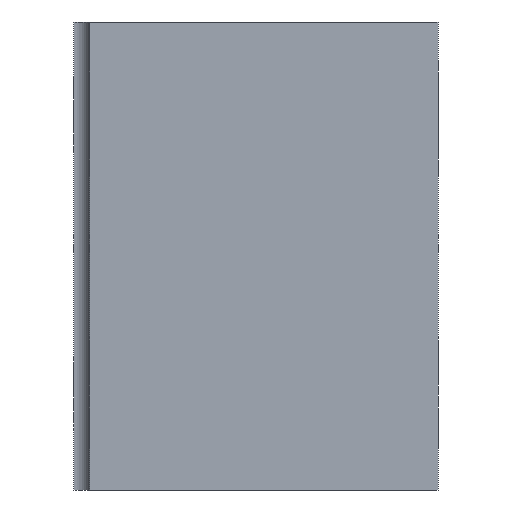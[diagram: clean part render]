
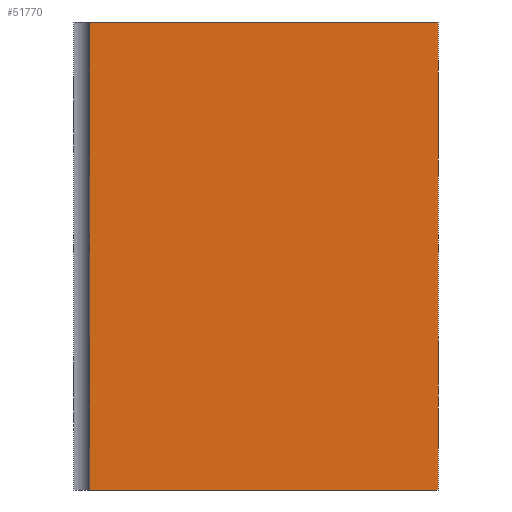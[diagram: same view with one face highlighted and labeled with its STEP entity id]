
A CAD part, left-side view. The second image highlights one B-rep face of the part: STEP entity #51770.
In plain terms, the highlighted planar face has unit normal (-1, 0, 0).
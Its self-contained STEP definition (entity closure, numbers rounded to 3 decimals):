
#619 = AXIS2_PLACEMENT_3D ( 'NONE', #59393, #54574, #19331 ) ;
#1998 = DIRECTION ( 'NONE',  ( 0., 0., 1. ) ) ;
#3907 = CARTESIAN_POINT ( 'NONE',  ( -185., 70., -45. ) ) ;
#5928 = DIRECTION ( 'NONE',  ( 0., -1., 0. ) ) ;
#7138 = LINE ( 'NONE', #50513, #17247 ) ;
#9429 = DIRECTION ( 'NONE',  ( 0., 0., -1. ) ) ;
#10761 = CARTESIAN_POINT ( 'NONE',  ( -185., 70., 45. ) ) ;
#13904 = CARTESIAN_POINT ( 'NONE',  ( -185., 0., -45. ) ) ;
#17247 = VECTOR ( 'NONE', #1998, 1000. ) ;
#19331 = DIRECTION ( 'NONE',  ( 0., 0., 1. ) ) ;
#20396 = VECTOR ( 'NONE', #9429, 1000. ) ;
#22862 = ORIENTED_EDGE ( 'NONE', *, *, #59068, .F. ) ;
#23508 = DIRECTION ( 'NONE',  ( 0., -1., 0. ) ) ;
#27979 = EDGE_CURVE ( 'NONE', #45420, #44986, #35843, .T. ) ;
#28193 = VECTOR ( 'NONE', #5928, 1000. ) ;
#29722 = CARTESIAN_POINT ( 'NONE',  ( -185., 0., 45. ) ) ;
#30287 = EDGE_CURVE ( 'NONE', #44986, #61297, #38986, .T. ) ;
#31022 = VECTOR ( 'NONE', #23508, 1000. ) ;
#34064 = VERTEX_POINT ( 'NONE', #52888 ) ;
#34441 = FACE_OUTER_BOUND ( 'NONE', #42021, .T. ) ;
#34752 = PLANE ( 'NONE',  #619 ) ;
#35843 = LINE ( 'NONE', #10761, #28193 ) ;
#38270 = EDGE_CURVE ( 'NONE', #34064, #61297, #47902, .T. ) ;
#38986 = LINE ( 'NONE', #58517, #20396 ) ;
#42021 = EDGE_LOOP ( 'NONE', ( #22862, #46631, #58237, #56396 ) ) ;
#44986 = VERTEX_POINT ( 'NONE', #29722 ) ;
#45420 = VERTEX_POINT ( 'NONE', #53191 ) ;
#46631 = ORIENTED_EDGE ( 'NONE', *, *, #38270, .T. ) ;
#47902 = LINE ( 'NONE', #3907, #31022 ) ;
#50513 = CARTESIAN_POINT ( 'NONE',  ( -185., 67., -45. ) ) ;
#51770 = ADVANCED_FACE ( 'NONE', ( #34441 ), #34752, .T. ) ;
#52888 = CARTESIAN_POINT ( 'NONE',  ( -185., 67., -45. ) ) ;
#53191 = CARTESIAN_POINT ( 'NONE',  ( -185., 67., 45. ) ) ;
#54574 = DIRECTION ( 'NONE',  ( -1., 0., 0. ) ) ;
#56396 = ORIENTED_EDGE ( 'NONE', *, *, #27979, .F. ) ;
#58237 = ORIENTED_EDGE ( 'NONE', *, *, #30287, .F. ) ;
#58517 = CARTESIAN_POINT ( 'NONE',  ( -185., 0., 45. ) ) ;
#59068 = EDGE_CURVE ( 'NONE', #34064, #45420, #7138, .T. ) ;
#59393 = CARTESIAN_POINT ( 'NONE',  ( -185., 70., 45. ) ) ;
#61297 = VERTEX_POINT ( 'NONE', #13904 ) ;
